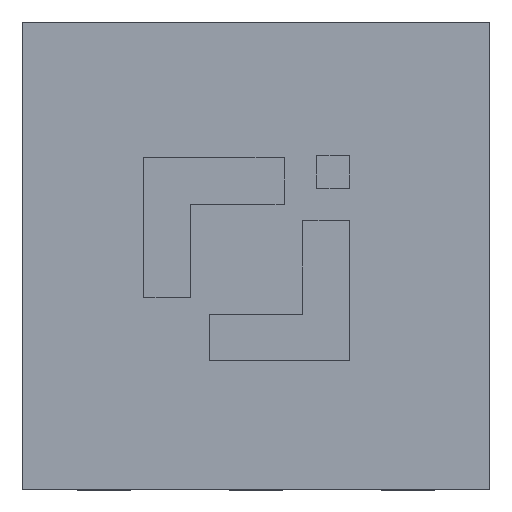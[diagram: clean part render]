
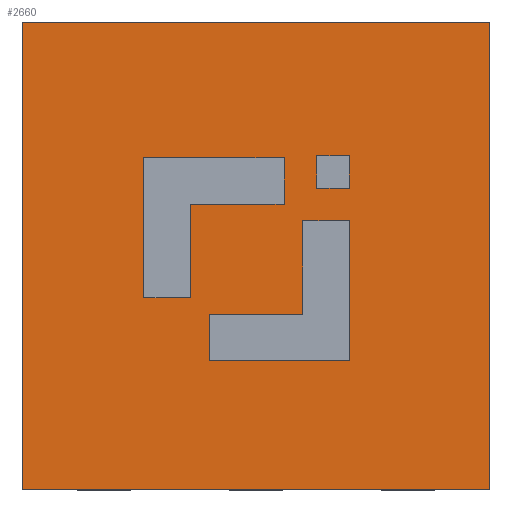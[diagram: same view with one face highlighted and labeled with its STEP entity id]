
A CAD part, top view. The second image highlights one B-rep face of the part: STEP entity #2660.
In plain terms, the highlighted planar face has unit normal (0, 0, 1).
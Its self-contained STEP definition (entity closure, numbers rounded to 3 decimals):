
#2487=CARTESIAN_POINT('',(0.,0.,0.525));
#2488=DIRECTION('',(0.,0.,1.));
#2489=DIRECTION('',(1.,0.,0.));
#2490=AXIS2_PLACEMENT_3D('',#2487,#2488,#2489);
#2491=PLANE('',#2490);
#2492=CARTESIAN_POINT('',(1.,1.,0.525));
#2493=VERTEX_POINT('',#2492);
#2494=CARTESIAN_POINT('',(1.,-1.,0.525));
#2495=VERTEX_POINT('',#2494);
#2496=CARTESIAN_POINT('',(1.,1.,0.525));
#2497=DIRECTION('',(0.,-1.,0.));
#2498=VECTOR('',#2497,2.);
#2499=LINE('',#2496,#2498);
#2500=EDGE_CURVE('',#2493,#2495,#2499,.T.);
#2501=ORIENTED_EDGE('',*,*,#2500,.F.);
#2502=CARTESIAN_POINT('',(-1.,1.,0.525));
#2503=VERTEX_POINT('',#2502);
#2504=CARTESIAN_POINT('',(-1.,1.,0.525));
#2505=DIRECTION('',(1.,0.,0.));
#2506=VECTOR('',#2505,2.);
#2507=LINE('',#2504,#2506);
#2508=EDGE_CURVE('',#2503,#2493,#2507,.T.);
#2509=ORIENTED_EDGE('',*,*,#2508,.F.);
#2510=CARTESIAN_POINT('',(-1.,-1.,0.525));
#2511=VERTEX_POINT('',#2510);
#2512=CARTESIAN_POINT('',(-1.,-1.,0.525));
#2513=DIRECTION('',(0.,1.,0.));
#2514=VECTOR('',#2513,2.);
#2515=LINE('',#2512,#2514);
#2516=EDGE_CURVE('',#2511,#2503,#2515,.T.);
#2517=ORIENTED_EDGE('',*,*,#2516,.F.);
#2518=CARTESIAN_POINT('',(1.,-1.,0.525));
#2519=DIRECTION('',(-1.,-0.,0.));
#2520=VECTOR('',#2519,2.);
#2521=LINE('',#2518,#2520);
#2522=EDGE_CURVE('',#2495,#2511,#2521,.T.);
#2523=ORIENTED_EDGE('',*,*,#2522,.F.);
#2524=EDGE_LOOP('',(#2501,#2509,#2517,#2523));
#2525=FACE_BOUND('',#2524,.T.);
#2526=CARTESIAN_POINT('',(-0.48,0.42,0.525));
#2527=VERTEX_POINT('',#2526);
#2528=CARTESIAN_POINT('',(0.12,0.42,0.525));
#2529=VERTEX_POINT('',#2528);
#2530=CARTESIAN_POINT('',(-0.48,0.42,0.525));
#2531=DIRECTION('',(1.,0.,0.));
#2532=VECTOR('',#2531,0.6);
#2533=LINE('',#2530,#2532);
#2534=EDGE_CURVE('',#2527,#2529,#2533,.T.);
#2535=ORIENTED_EDGE('',*,*,#2534,.T.);
#2536=CARTESIAN_POINT('',(0.12,0.22,0.525));
#2537=VERTEX_POINT('',#2536);
#2538=CARTESIAN_POINT('',(0.12,0.42,0.525));
#2539=DIRECTION('',(0.,-1.,0.));
#2540=VECTOR('',#2539,0.2);
#2541=LINE('',#2538,#2540);
#2542=EDGE_CURVE('',#2529,#2537,#2541,.T.);
#2543=ORIENTED_EDGE('',*,*,#2542,.T.);
#2544=CARTESIAN_POINT('',(-0.28,0.22,0.525));
#2545=VERTEX_POINT('',#2544);
#2546=CARTESIAN_POINT('',(0.12,0.22,0.525));
#2547=DIRECTION('',(-1.,-0.,0.));
#2548=VECTOR('',#2547,0.4);
#2549=LINE('',#2546,#2548);
#2550=EDGE_CURVE('',#2537,#2545,#2549,.T.);
#2551=ORIENTED_EDGE('',*,*,#2550,.T.);
#2552=CARTESIAN_POINT('',(-0.28,-0.18,0.525));
#2553=VERTEX_POINT('',#2552);
#2554=CARTESIAN_POINT('',(-0.28,0.22,0.525));
#2555=DIRECTION('',(0.,-1.,0.));
#2556=VECTOR('',#2555,0.4);
#2557=LINE('',#2554,#2556);
#2558=EDGE_CURVE('',#2545,#2553,#2557,.T.);
#2559=ORIENTED_EDGE('',*,*,#2558,.T.);
#2560=CARTESIAN_POINT('',(-0.48,-0.18,0.525));
#2561=VERTEX_POINT('',#2560);
#2562=CARTESIAN_POINT('',(-0.28,-0.18,0.525));
#2563=DIRECTION('',(-1.,0.,0.));
#2564=VECTOR('',#2563,0.2);
#2565=LINE('',#2562,#2564);
#2566=EDGE_CURVE('',#2553,#2561,#2565,.T.);
#2567=ORIENTED_EDGE('',*,*,#2566,.T.);
#2568=CARTESIAN_POINT('',(-0.48,-0.18,0.525));
#2569=DIRECTION('',(0.,1.,0.));
#2570=VECTOR('',#2569,0.6);
#2571=LINE('',#2568,#2570);
#2572=EDGE_CURVE('',#2561,#2527,#2571,.T.);
#2573=ORIENTED_EDGE('',*,*,#2572,.T.);
#2574=EDGE_LOOP('',(#2535,#2543,#2551,#2559,#2567,#2573));
#2575=FACE_BOUND('',#2574,.T.);
#2576=CARTESIAN_POINT('',(0.26,0.429,0.525));
#2577=VERTEX_POINT('',#2576);
#2578=CARTESIAN_POINT('',(0.4,0.429,0.525));
#2579=VERTEX_POINT('',#2578);
#2580=CARTESIAN_POINT('',(0.26,0.429,0.525));
#2581=DIRECTION('',(1.,0.,0.));
#2582=VECTOR('',#2581,0.14);
#2583=LINE('',#2580,#2582);
#2584=EDGE_CURVE('',#2577,#2579,#2583,.T.);
#2585=ORIENTED_EDGE('',*,*,#2584,.T.);
#2586=CARTESIAN_POINT('',(0.4,0.289,0.525));
#2587=VERTEX_POINT('',#2586);
#2588=CARTESIAN_POINT('',(0.4,0.429,0.525));
#2589=DIRECTION('',(0.,-1.,0.));
#2590=VECTOR('',#2589,0.14);
#2591=LINE('',#2588,#2590);
#2592=EDGE_CURVE('',#2579,#2587,#2591,.T.);
#2593=ORIENTED_EDGE('',*,*,#2592,.T.);
#2594=CARTESIAN_POINT('',(0.26,0.289,0.525));
#2595=VERTEX_POINT('',#2594);
#2596=CARTESIAN_POINT('',(0.4,0.289,0.525));
#2597=DIRECTION('',(-1.,0.,0.));
#2598=VECTOR('',#2597,0.14);
#2599=LINE('',#2596,#2598);
#2600=EDGE_CURVE('',#2587,#2595,#2599,.T.);
#2601=ORIENTED_EDGE('',*,*,#2600,.T.);
#2602=CARTESIAN_POINT('',(0.26,0.289,0.525));
#2603=DIRECTION('',(0.,1.,0.));
#2604=VECTOR('',#2603,0.14);
#2605=LINE('',#2602,#2604);
#2606=EDGE_CURVE('',#2595,#2577,#2605,.T.);
#2607=ORIENTED_EDGE('',*,*,#2606,.T.);
#2608=EDGE_LOOP('',(#2585,#2593,#2601,#2607));
#2609=FACE_BOUND('',#2608,.T.);
#2610=CARTESIAN_POINT('',(0.2,0.15,0.525));
#2611=VERTEX_POINT('',#2610);
#2612=CARTESIAN_POINT('',(0.4,0.15,0.525));
#2613=VERTEX_POINT('',#2612);
#2614=CARTESIAN_POINT('',(0.2,0.15,0.525));
#2615=DIRECTION('',(1.,0.,-0.));
#2616=VECTOR('',#2615,0.2);
#2617=LINE('',#2614,#2616);
#2618=EDGE_CURVE('',#2611,#2613,#2617,.T.);
#2619=ORIENTED_EDGE('',*,*,#2618,.T.);
#2620=CARTESIAN_POINT('',(0.4,-0.45,0.525));
#2621=VERTEX_POINT('',#2620);
#2622=CARTESIAN_POINT('',(0.4,0.15,0.525));
#2623=DIRECTION('',(0.,-1.,0.));
#2624=VECTOR('',#2623,0.6);
#2625=LINE('',#2622,#2624);
#2626=EDGE_CURVE('',#2613,#2621,#2625,.T.);
#2627=ORIENTED_EDGE('',*,*,#2626,.T.);
#2628=CARTESIAN_POINT('',(-0.2,-0.45,0.525));
#2629=VERTEX_POINT('',#2628);
#2630=CARTESIAN_POINT('',(0.4,-0.45,0.525));
#2631=DIRECTION('',(-1.,0.,0.));
#2632=VECTOR('',#2631,0.6);
#2633=LINE('',#2630,#2632);
#2634=EDGE_CURVE('',#2621,#2629,#2633,.T.);
#2635=ORIENTED_EDGE('',*,*,#2634,.T.);
#2636=CARTESIAN_POINT('',(-0.2,-0.25,0.525));
#2637=VERTEX_POINT('',#2636);
#2638=CARTESIAN_POINT('',(-0.2,-0.45,0.525));
#2639=DIRECTION('',(0.,1.,0.));
#2640=VECTOR('',#2639,0.2);
#2641=LINE('',#2638,#2640);
#2642=EDGE_CURVE('',#2629,#2637,#2641,.T.);
#2643=ORIENTED_EDGE('',*,*,#2642,.T.);
#2644=CARTESIAN_POINT('',(0.2,-0.25,0.525));
#2645=VERTEX_POINT('',#2644);
#2646=CARTESIAN_POINT('',(-0.2,-0.25,0.525));
#2647=DIRECTION('',(1.,0.,-0.));
#2648=VECTOR('',#2647,0.4);
#2649=LINE('',#2646,#2648);
#2650=EDGE_CURVE('',#2637,#2645,#2649,.T.);
#2651=ORIENTED_EDGE('',*,*,#2650,.T.);
#2652=CARTESIAN_POINT('',(0.2,-0.25,0.525));
#2653=DIRECTION('',(0.,1.,0.));
#2654=VECTOR('',#2653,0.4);
#2655=LINE('',#2652,#2654);
#2656=EDGE_CURVE('',#2645,#2611,#2655,.T.);
#2657=ORIENTED_EDGE('',*,*,#2656,.T.);
#2658=EDGE_LOOP('',(#2619,#2627,#2635,#2643,#2651,#2657));
#2659=FACE_BOUND('',#2658,.T.);
#2660=ADVANCED_FACE('',(#2525,#2575,#2609,#2659),#2491,.T.);
